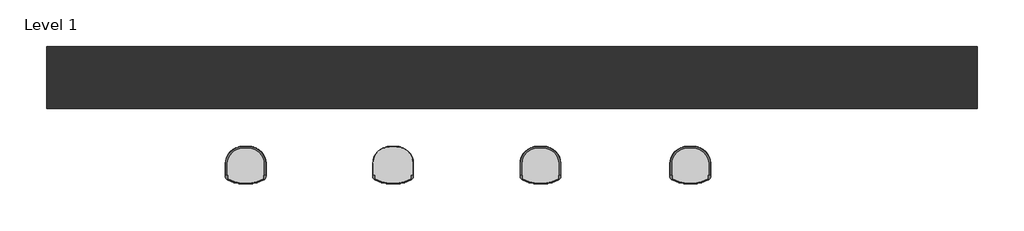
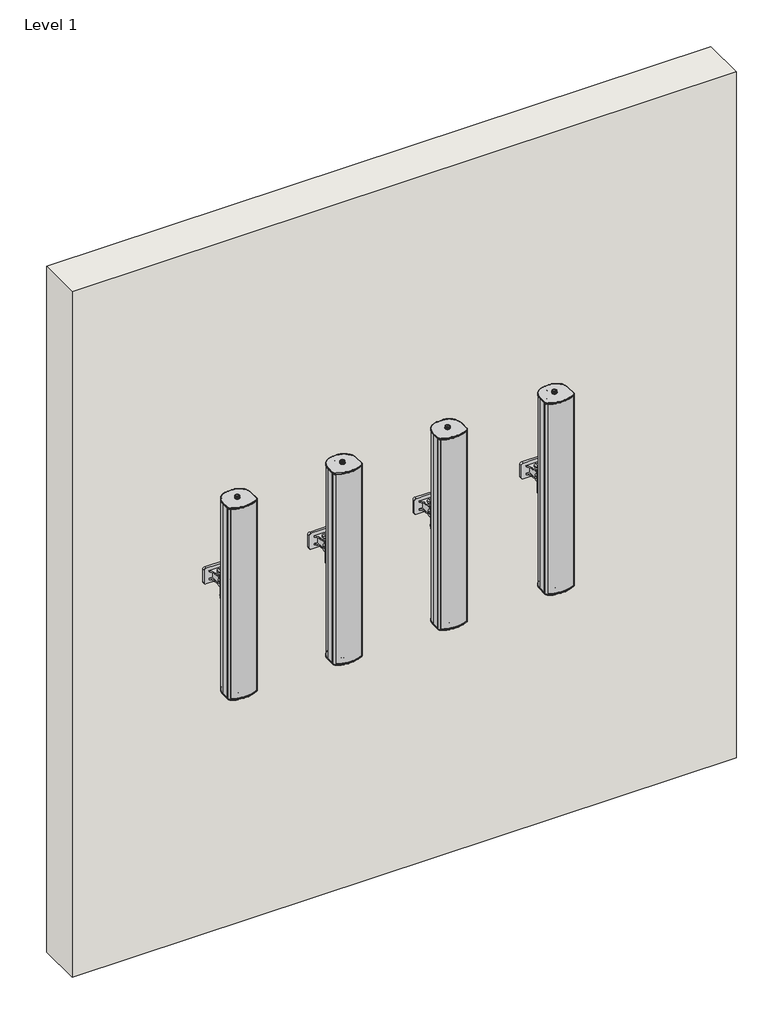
# One storey: 4 proxies, 1 wall.
"""IFC4 building model written with IfcOpenShell, lengths in millimetres."""

from ifc_helpers import new_model, si_unit, origin, origin_with_axes, place, context, project, spatial, polyline, outline, extrude, transform, mapped, element, save
from components import communication_devices_c1ddb917, communication_devices_d7f1a59e

model = new_model("IFC4")

# Units and contexts
model_context = context("Model", 3, world=origin())
ifc_project = project(units=[si_unit("LENGTHUNIT", "METRE", prefix="MILLI")], contexts=[model_context])

# Site, building, storey
site = spatial("IfcSite", under=ifc_project)
building = spatial("IfcBuilding", under=site)
storey = spatial("IfcBuildingStorey", under=building, Name="Level 1", Elevation=0.0)

# Proxies
placement = place(None, origin())
communication_devices_shape = communication_devices_c1ddb917(model_context)
communication_devices_2_shape = communication_devices_d7f1a59e(model_context)
element("IfcBuildingElementProxy", 1, Name="TS-C 30-700_T-EN54 : TS-C 30-700/T-EN54", ObjectType="TS-C 30-700_T-EN54 : TS-C 30-700/T-EN54", at=placement, inside=storey, context=model_context, shape_type="MappedRepresentation", body=[
    mapped(communication_devices_shape, transform((2322.1473575, 1867.9266815, 952.5), x_axis=(1.0, 0.0, 0.0), y_axis=(0.0, 1.0, 0.0), z_axis=(0.0, 0.0, 1.0))),
    mapped(communication_devices_2_shape, transform((2322.1473575, 1867.9266815, 952.5), x_axis=(1.0, 0.0, 0.0), y_axis=(0.0, 1.0, 0.0), z_axis=(0.0, 0.0, 1.0))),
])
element("IfcBuildingElementProxy", 2, Name="TS-C 30-700_T-EN54 : TS-C 30-700/T-EN54", ObjectType="TS-C 30-700_T-EN54 : TS-C 30-700/T-EN54", at=placement, inside=storey, context=model_context, shape_type="MappedRepresentation", body=[
    mapped(communication_devices_shape, transform((3413.9973575, 1867.9266815, 952.5), x_axis=(1.0, 0.0, 0.0), y_axis=(0.0, 1.0, 0.0), z_axis=(0.0, 0.0, 1.0))),
    mapped(communication_devices_2_shape, transform((3413.9973575, 1867.9266815, 952.5), x_axis=(1.0, 0.0, 0.0), y_axis=(0.0, 1.0, 0.0), z_axis=(0.0, 0.0, 1.0))),
])
element("IfcBuildingElementProxy", 3, Name="TS-C 30-700_T-EN54 : TS-C 30-700/T-EN54", ObjectType="TS-C 30-700_T-EN54 : TS-C 30-700/T-EN54", at=placement, inside=storey, context=model_context, shape_type="MappedRepresentation", body=[
    mapped(communication_devices_shape, transform((2684.0973575, 1867.9266815, 952.5), x_axis=(1.0, 0.0, 0.0), y_axis=(0.0, 1.0, 0.0), z_axis=(0.0, 0.0, 1.0))),
    mapped(communication_devices_2_shape, transform((2684.0973575, 1867.9266815, 952.5), x_axis=(1.0, 0.0, 0.0), y_axis=(0.0, 1.0, 0.0), z_axis=(0.0, 0.0, 1.0))),
])
element("IfcBuildingElementProxy", 4, Name="TS-C 30-700_T-EN54 : TS-C 30-700/T-EN54", ObjectType="TS-C 30-700_T-EN54 : TS-C 30-700/T-EN54", at=placement, inside=storey, context=model_context, shape_type="MappedRepresentation", body=[
    mapped(communication_devices_shape, transform((3046.0473575, 1867.9266815, 952.5), x_axis=(1.0, 0.0, 0.0), y_axis=(0.0, 1.0, 0.0), z_axis=(0.0, 0.0, 1.0))),
    mapped(communication_devices_2_shape, transform((3046.0473575, 1867.9266815, 952.5), x_axis=(1.0, 0.0, 0.0), y_axis=(0.0, 1.0, 0.0), z_axis=(0.0, 0.0, 1.0))),
])

# Wall
element("IfcWall", 5, ObjectType="Exterior - 6\" Generic", at=placement, inside=storey, context=model_context, shape_type="SweptSolid", body=[
    extrude(outline(polyline([(4119.1973575, 1963.1766815), (1833.1973575, 1963.1766815), (1833.1973575, 2115.5766815), (4119.1973575, 2115.5766815), (4119.1973575, 1963.1766815)])), origin_with_axes(), (0.0, 0.0, 1.0), 2495.55),
])

save(model, "model.ifc")
